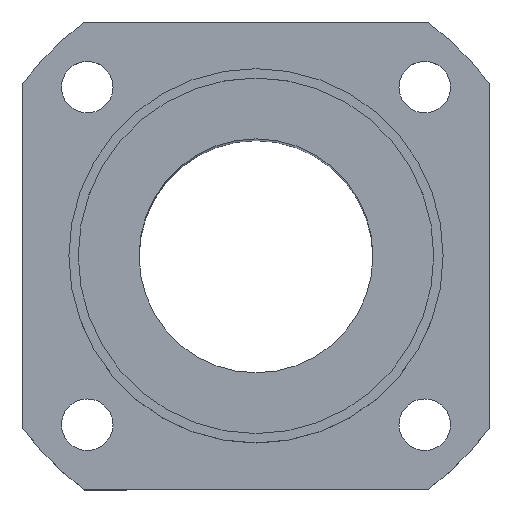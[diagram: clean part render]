
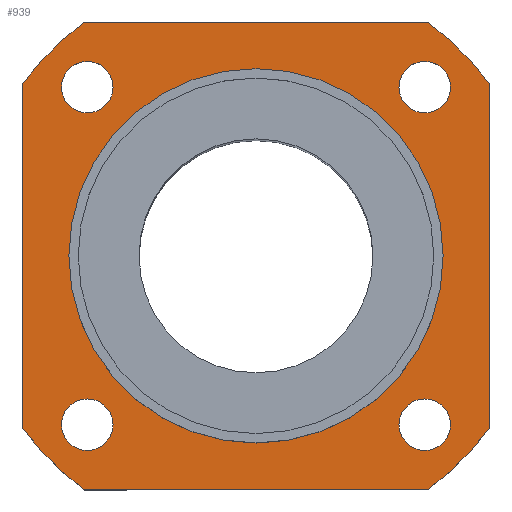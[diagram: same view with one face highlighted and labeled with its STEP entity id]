
A CAD part, top view. The second image highlights one B-rep face of the part: STEP entity #939.
In plain terms, the highlighted planar face has unit normal (0, 0, 1).
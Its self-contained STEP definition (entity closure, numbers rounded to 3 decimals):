
#49=CARTESIAN_POINT('',(-22.58,9.934,104.));
#50=VERTEX_POINT('',#49);
#59=CARTESIAN_POINT('',(17.42,9.934,104.));
#60=VERTEX_POINT('',#59);
#61=CARTESIAN_POINT('',(-2.58,9.934,104.));
#62=DIRECTION('',(0.0,0.0,1.0));
#63=DIRECTION('',(-1.0,0.0,0.0));
#64=AXIS2_PLACEMENT_3D('',#61,#62,#63);
#65=CIRCLE('',#64,20.0);
#66=EDGE_CURVE('',#50,#60,#65,.T.);
#259=CARTESIAN_POINT('',(-17.861,27.965,104.));
#260=VERTEX_POINT('',#259);
#269=CARTESIAN_POINT('',(-23.361,27.965,104.));
#270=VERTEX_POINT('',#269);
#271=CARTESIAN_POINT('',(-20.611,27.965,104.));
#272=DIRECTION('',(0.0,0.0,-1.0));
#273=DIRECTION('',(1.0,0.0,0.0));
#274=AXIS2_PLACEMENT_3D('',#271,#272,#273);
#275=CIRCLE('',#274,2.75);
#276=EDGE_CURVE('',#270,#260,#275,.T.);
#343=CARTESIAN_POINT('',(15.452,25.215,104.));
#344=VERTEX_POINT('',#343);
#353=CARTESIAN_POINT('',(15.452,30.715,104.));
#354=VERTEX_POINT('',#353);
#355=CARTESIAN_POINT('',(15.452,27.965,104.));
#356=DIRECTION('',(0.0,0.0,-1.0));
#357=DIRECTION('',(0.0,-1.0,0.0));
#358=AXIS2_PLACEMENT_3D('',#355,#356,#357);
#359=CIRCLE('',#358,2.75);
#360=EDGE_CURVE('',#354,#344,#359,.T.);
#427=CARTESIAN_POINT('',(12.702,-8.097,104.));
#428=VERTEX_POINT('',#427);
#437=CARTESIAN_POINT('',(18.202,-8.097,104.));
#438=VERTEX_POINT('',#437);
#439=CARTESIAN_POINT('',(15.452,-8.097,104.));
#440=DIRECTION('',(0.0,0.0,-1.0));
#441=DIRECTION('',(-1.0,0.0,0.0));
#442=AXIS2_PLACEMENT_3D('',#439,#440,#441);
#443=CIRCLE('',#442,2.75);
#444=EDGE_CURVE('',#438,#428,#443,.T.);
#511=CARTESIAN_POINT('',(-20.611,-5.347,104.));
#512=VERTEX_POINT('',#511);
#521=CARTESIAN_POINT('',(-20.611,-10.847,104.));
#522=VERTEX_POINT('',#521);
#523=CARTESIAN_POINT('',(-20.611,-8.097,104.));
#524=DIRECTION('',(0.0,0.0,-1.0));
#525=DIRECTION('',(0.0,1.0,0.0));
#526=AXIS2_PLACEMENT_3D('',#523,#524,#525);
#527=CIRCLE('',#526,2.75);
#528=EDGE_CURVE('',#522,#512,#527,.T.);
#642=CARTESIAN_POINT('',(-20.611,-8.097,104.));
#643=DIRECTION('',(0.0,0.0,-1.0));
#644=DIRECTION('',(0.0,1.0,0.0));
#645=AXIS2_PLACEMENT_3D('',#642,#643,#644);
#646=CIRCLE('',#645,2.75);
#647=EDGE_CURVE('',#512,#522,#646,.T.);
#704=CARTESIAN_POINT('',(15.452,-8.097,104.));
#705=DIRECTION('',(0.0,0.0,-1.0));
#706=DIRECTION('',(-1.0,0.0,0.0));
#707=AXIS2_PLACEMENT_3D('',#704,#705,#706);
#708=CIRCLE('',#707,2.75);
#709=EDGE_CURVE('',#428,#438,#708,.T.);
#766=CARTESIAN_POINT('',(15.452,27.965,104.));
#767=DIRECTION('',(0.0,0.0,-1.0));
#768=DIRECTION('',(0.0,-1.0,0.0));
#769=AXIS2_PLACEMENT_3D('',#766,#767,#768);
#770=CIRCLE('',#769,2.75);
#771=EDGE_CURVE('',#344,#354,#770,.T.);
#828=CARTESIAN_POINT('',(-20.611,27.965,104.));
#829=DIRECTION('',(0.0,0.0,-1.0));
#830=DIRECTION('',(1.0,0.0,0.0));
#831=AXIS2_PLACEMENT_3D('',#828,#829,#830);
#832=CIRCLE('',#831,2.75);
#833=EDGE_CURVE('',#260,#270,#832,.T.);
#838=CARTESIAN_POINT('',(-2.58,9.934,104.));
#839=DIRECTION('',(0.0,0.0,1.0));
#840=DIRECTION('',(1.0,0.0,0.0));
#841=AXIS2_PLACEMENT_3D('',#838,#839,#840);
#842=PLANE('',#841);
#843=CARTESIAN_POINT('',(15.751,-15.066,104.0));
#844=VERTEX_POINT('',#843);
#845=CARTESIAN_POINT('',(-20.91,-15.066,104.0));
#846=VERTEX_POINT('',#845);
#847=CARTESIAN_POINT('',(15.751,-15.066,104.0));
#848=DIRECTION('',(-1.0,0.0,0.0));
#849=VECTOR('',#848,36.661);
#850=LINE('',#847,#849);
#851=EDGE_CURVE('',#844,#846,#850,.T.);
#852=ORIENTED_EDGE('',*,*,#851,.F.);
#853=CARTESIAN_POINT('',(22.42,-8.396,104.0));
#854=VERTEX_POINT('',#853);
#855=CARTESIAN_POINT('',(-2.58,9.934,104.0));
#856=DIRECTION('',(0.0,0.0,-1.0));
#857=DIRECTION('',(-0.591,0.806,0.0));
#858=AXIS2_PLACEMENT_3D('',#855,#856,#857);
#859=CIRCLE('',#858,31.0);
#860=EDGE_CURVE('',#854,#844,#859,.T.);
#861=ORIENTED_EDGE('',*,*,#860,.F.);
#862=CARTESIAN_POINT('',(22.42,28.264,104.0));
#863=VERTEX_POINT('',#862);
#864=CARTESIAN_POINT('',(22.42,28.264,104.0));
#865=DIRECTION('',(0.0,-1.0,0.0));
#866=VECTOR('',#865,36.661);
#867=LINE('',#864,#866);
#868=EDGE_CURVE('',#863,#854,#867,.T.);
#869=ORIENTED_EDGE('',*,*,#868,.F.);
#870=CARTESIAN_POINT('',(15.751,34.934,104.0));
#871=VERTEX_POINT('',#870);
#872=CARTESIAN_POINT('',(-2.58,9.934,104.0));
#873=DIRECTION('',(0.0,0.0,-1.0));
#874=DIRECTION('',(-0.806,-0.591,0.0));
#875=AXIS2_PLACEMENT_3D('',#872,#873,#874);
#876=CIRCLE('',#875,31.);
#877=EDGE_CURVE('',#871,#863,#876,.T.);
#878=ORIENTED_EDGE('',*,*,#877,.F.);
#879=CARTESIAN_POINT('',(-20.91,34.934,104.0));
#880=VERTEX_POINT('',#879);
#881=CARTESIAN_POINT('',(-20.91,34.934,104.0));
#882=DIRECTION('',(1.0,0.0,0.0));
#883=VECTOR('',#882,36.661);
#884=LINE('',#881,#883);
#885=EDGE_CURVE('',#880,#871,#884,.T.);
#886=ORIENTED_EDGE('',*,*,#885,.F.);
#887=CARTESIAN_POINT('',(-27.58,28.264,104.0));
#888=VERTEX_POINT('',#887);
#889=CARTESIAN_POINT('',(-2.58,9.934,104.0));
#890=DIRECTION('',(0.0,0.0,-1.0));
#891=DIRECTION('',(0.591,-0.806,0.0));
#892=AXIS2_PLACEMENT_3D('',#889,#890,#891);
#893=CIRCLE('',#892,31.);
#894=EDGE_CURVE('',#888,#880,#893,.T.);
#895=ORIENTED_EDGE('',*,*,#894,.F.);
#896=CARTESIAN_POINT('',(-27.58,-8.396,104.0));
#897=VERTEX_POINT('',#896);
#898=CARTESIAN_POINT('',(-27.58,-8.396,104.0));
#899=DIRECTION('',(0.0,1.0,0.0));
#900=VECTOR('',#899,36.661);
#901=LINE('',#898,#900);
#902=EDGE_CURVE('',#897,#888,#901,.T.);
#903=ORIENTED_EDGE('',*,*,#902,.F.);
#904=CARTESIAN_POINT('',(-2.58,9.934,104.0));
#905=DIRECTION('',(0.0,0.0,-1.0));
#906=DIRECTION('',(0.806,0.591,0.0));
#907=AXIS2_PLACEMENT_3D('',#904,#905,#906);
#908=CIRCLE('',#907,31.);
#909=EDGE_CURVE('',#846,#897,#908,.T.);
#910=ORIENTED_EDGE('',*,*,#909,.F.);
#911=EDGE_LOOP('',(#852,#861,#869,#878,#886,#895,#903,#910));
#912=FACE_OUTER_BOUND('',#911,.T.);
#913=ORIENTED_EDGE('',*,*,#528,.T.);
#914=ORIENTED_EDGE('',*,*,#647,.T.);
#915=EDGE_LOOP('',(#913,#914));
#916=FACE_BOUND('',#915,.T.);
#917=ORIENTED_EDGE('',*,*,#444,.T.);
#918=ORIENTED_EDGE('',*,*,#709,.T.);
#919=EDGE_LOOP('',(#917,#918));
#920=FACE_BOUND('',#919,.T.);
#921=ORIENTED_EDGE('',*,*,#360,.T.);
#922=ORIENTED_EDGE('',*,*,#771,.T.);
#923=EDGE_LOOP('',(#921,#922));
#924=FACE_BOUND('',#923,.T.);
#925=ORIENTED_EDGE('',*,*,#276,.T.);
#926=ORIENTED_EDGE('',*,*,#833,.T.);
#927=EDGE_LOOP('',(#925,#926));
#928=FACE_BOUND('',#927,.T.);
#929=CARTESIAN_POINT('',(-2.58,9.934,104.));
#930=DIRECTION('',(0.0,0.0,1.0));
#931=DIRECTION('',(-1.0,0.0,0.0));
#932=AXIS2_PLACEMENT_3D('',#929,#930,#931);
#933=CIRCLE('',#932,20.0);
#934=EDGE_CURVE('',#60,#50,#933,.T.);
#935=ORIENTED_EDGE('',*,*,#934,.F.);
#936=ORIENTED_EDGE('',*,*,#66,.F.);
#937=EDGE_LOOP('',(#935,#936));
#938=FACE_BOUND('',#937,.T.);
#939=ADVANCED_FACE('',(#912,#916,#920,#924,#928,#938),#842,.T.);
